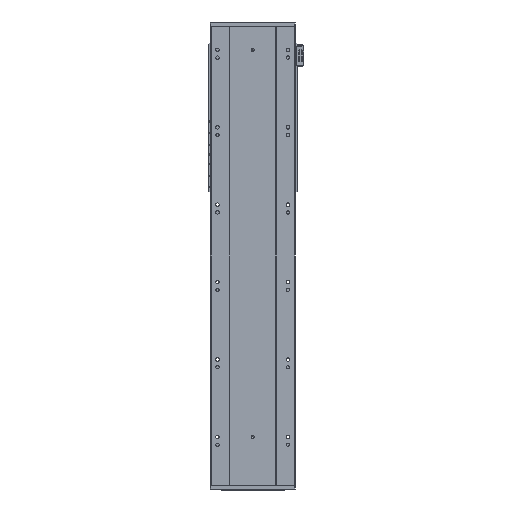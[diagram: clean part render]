
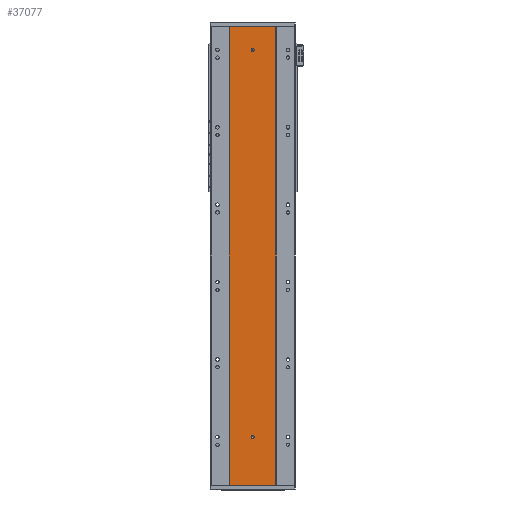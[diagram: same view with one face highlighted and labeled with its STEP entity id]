
A CAD part, front view. The second image highlights one B-rep face of the part: STEP entity #37077.
In plain terms, the highlighted planar face has unit normal (0, -1, 0).
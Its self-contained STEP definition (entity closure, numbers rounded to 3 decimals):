
#29 = DIRECTION ( 'NONE',  ( 0., -1., 0. ) ) ;
#1370 = ORIENTED_EDGE ( 'NONE', *, *, #32392, .F. ) ;
#3856 = DIRECTION ( 'NONE',  ( 0., -1., 0. ) ) ;
#4010 = FACE_BOUND ( 'NONE', #46820, .T. ) ;
#5643 = DIRECTION ( 'NONE',  ( 0., 0., 1. ) ) ;
#7173 = VERTEX_POINT ( 'NONE', #40039 ) ;
#7585 = VERTEX_POINT ( 'NONE', #28961 ) ;
#8839 = EDGE_CURVE ( 'NONE', #7585, #18274, #30203, .T. ) ;
#8998 = EDGE_CURVE ( 'NONE', #14911, #36028, #52448, .T. ) ;
#9045 = EDGE_CURVE ( 'NONE', #38156, #58881, #26550, .T. ) ;
#9124 = ORIENTED_EDGE ( 'NONE', *, *, #8998, .F. ) ;
#10247 = DIRECTION ( 'NONE',  ( 0., 0., -1. ) ) ;
#10764 = VECTOR ( 'NONE', #25304, 1000. ) ;
#10883 = CARTESIAN_POINT ( 'NONE',  ( 60., 0., 1185. ) ) ;
#11327 = AXIS2_PLACEMENT_3D ( 'NONE', #22358, #29, #13291 ) ;
#11546 = DIRECTION ( 'NONE',  ( 0., -1., 0. ) ) ;
#12391 = CARTESIAN_POINT ( 'NONE',  ( 60., 0., 1185. ) ) ;
#12648 = CARTESIAN_POINT ( 'NONE',  ( -60., 0., 1185. ) ) ;
#13291 = DIRECTION ( 'NONE',  ( 0., 0., -1. ) ) ;
#14350 = VECTOR ( 'NONE', #16675, 1000. ) ;
#14911 = VERTEX_POINT ( 'NONE', #35017 ) ;
#15831 = CARTESIAN_POINT ( 'NONE',  ( -60., 0., 1185. ) ) ;
#16675 = DIRECTION ( 'NONE',  ( 0., 0., -1. ) ) ;
#16986 = AXIS2_PLACEMENT_3D ( 'NONE', #37428, #42474, #5643 ) ;
#17113 = LINE ( 'NONE', #31257, #33742 ) ;
#18274 = VERTEX_POINT ( 'NONE', #32646 ) ;
#19794 = ORIENTED_EDGE ( 'NONE', *, *, #43570, .F. ) ;
#20480 = DIRECTION ( 'NONE',  ( 0., 0., -1. ) ) ;
#20852 = CARTESIAN_POINT ( 'NONE',  ( 0., 0., 121. ) ) ;
#21336 = AXIS2_PLACEMENT_3D ( 'NONE', #24725, #56487, #10247 ) ;
#22358 = CARTESIAN_POINT ( 'NONE',  ( 0., 0., 1125. ) ) ;
#22666 = AXIS2_PLACEMENT_3D ( 'NONE', #22722, #3856, #45274 ) ;
#22722 = CARTESIAN_POINT ( 'NONE',  ( 0., 0., 125. ) ) ;
#24383 = CIRCLE ( 'NONE', #48920, 4. ) ;
#24480 = LINE ( 'NONE', #15831, #10764 ) ;
#24725 = CARTESIAN_POINT ( 'NONE',  ( 0., 0., 1125. ) ) ;
#25304 = DIRECTION ( 'NONE',  ( 1., 0., 0. ) ) ;
#25642 = DIRECTION ( 'NONE',  ( 0., 0., -1. ) ) ;
#26550 = LINE ( 'NONE', #12391, #31600 ) ;
#26994 = VERTEX_POINT ( 'NONE', #31480 ) ;
#27298 = CARTESIAN_POINT ( 'NONE',  ( 60., 0., 0. ) ) ;
#27410 = CIRCLE ( 'NONE', #11327, 4. ) ;
#28961 = CARTESIAN_POINT ( 'NONE',  ( -60., 0., 1185. ) ) ;
#29875 = ORIENTED_EDGE ( 'NONE', *, *, #8839, .T. ) ;
#30203 = LINE ( 'NONE', #12648, #14350 ) ;
#31257 = CARTESIAN_POINT ( 'NONE',  ( -60., 0., 0. ) ) ;
#31359 = FACE_BOUND ( 'NONE', #41669, .T. ) ;
#31480 = CARTESIAN_POINT ( 'NONE',  ( 0., 0., 1129. ) ) ;
#31600 = VECTOR ( 'NONE', #20480, 1000. ) ;
#32392 = EDGE_CURVE ( 'NONE', #26994, #7173, #27410, .T. ) ;
#32646 = CARTESIAN_POINT ( 'NONE',  ( -60., 0., 0. ) ) ;
#33742 = VECTOR ( 'NONE', #36066, 1000. ) ;
#35017 = CARTESIAN_POINT ( 'NONE',  ( 0., 0., 129. ) ) ;
#35313 = CARTESIAN_POINT ( 'NONE',  ( 0., 0., 125. ) ) ;
#36028 = VERTEX_POINT ( 'NONE', #20852 ) ;
#36066 = DIRECTION ( 'NONE',  ( 1., 0., 0. ) ) ;
#37077 = ADVANCED_FACE ( 'NONE', ( #4010, #31359, #50039 ), #42264, .F. ) ;
#37428 = CARTESIAN_POINT ( 'NONE',  ( -60., 0., 1185. ) ) ;
#38156 = VERTEX_POINT ( 'NONE', #10883 ) ;
#38592 = EDGE_CURVE ( 'NONE', #7173, #26994, #55780, .T. ) ;
#40039 = CARTESIAN_POINT ( 'NONE',  ( 0., 0., 1121. ) ) ;
#41460 = ORIENTED_EDGE ( 'NONE', *, *, #44229, .T. ) ;
#41669 = EDGE_LOOP ( 'NONE', ( #19794, #9124 ) ) ;
#42264 = PLANE ( 'NONE',  #16986 ) ;
#42474 = DIRECTION ( 'NONE',  ( 0., 1., 0. ) ) ;
#43093 = EDGE_LOOP ( 'NONE', ( #41460, #48644, #43877, #29875 ) ) ;
#43570 = EDGE_CURVE ( 'NONE', #36028, #14911, #24383, .T. ) ;
#43877 = ORIENTED_EDGE ( 'NONE', *, *, #48079, .F. ) ;
#44229 = EDGE_CURVE ( 'NONE', #18274, #58881, #17113, .T. ) ;
#44431 = ORIENTED_EDGE ( 'NONE', *, *, #38592, .F. ) ;
#45274 = DIRECTION ( 'NONE',  ( 0., 0., -1. ) ) ;
#46820 = EDGE_LOOP ( 'NONE', ( #44431, #1370 ) ) ;
#48079 = EDGE_CURVE ( 'NONE', #7585, #38156, #24480, .T. ) ;
#48644 = ORIENTED_EDGE ( 'NONE', *, *, #9045, .F. ) ;
#48920 = AXIS2_PLACEMENT_3D ( 'NONE', #35313, #11546, #25642 ) ;
#50039 = FACE_OUTER_BOUND ( 'NONE', #43093, .T. ) ;
#52448 = CIRCLE ( 'NONE', #22666, 4. ) ;
#55780 = CIRCLE ( 'NONE', #21336, 4. ) ;
#56487 = DIRECTION ( 'NONE',  ( 0., -1., 0. ) ) ;
#58881 = VERTEX_POINT ( 'NONE', #27298 ) ;
